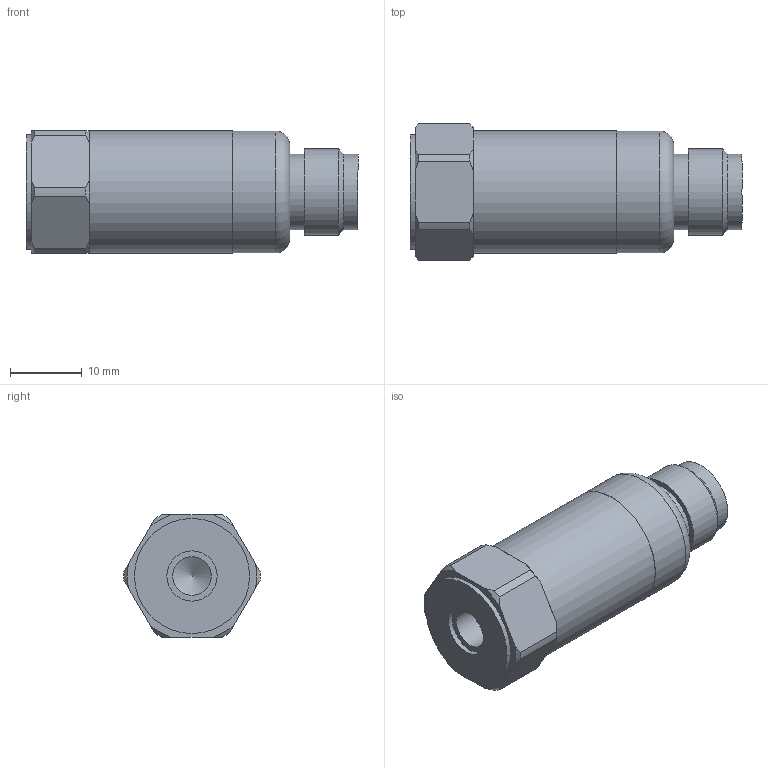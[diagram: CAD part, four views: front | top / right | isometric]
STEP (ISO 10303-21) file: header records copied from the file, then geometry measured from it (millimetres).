
FILE_DESCRIPTION(/* description */ (''),/* implementation_level */ '2;1');
FILE_NAME(/* name */ 'Z:\Engineering\Drawings\3D Library\Assemblies\Website\Premium Top\Compact\HS-170 Top M12\HS-1700105401.stp',/* time_stamp */ '2023-03-16T17:07:42+00:00',/* author */ ('Ricardo.Peneda'),/* organization */ (''),/* preprocessor_version */ 'ST-DEVELOPER v18.1',/* originating_system */ 'Autodesk Inventor 2021',/* authorisation */ '');
FILE_SCHEMA (('AUTOMOTIVE_DESIGN { 1 0 10303 214 3 1 1 }'));
Length unit declared in the file: inch
Products named in the file (1): HS-1700105401_Shrinkwrap_1
Bounding box: 46.2 x 19 x 17 mm (x, y, z)
Volume: 4142.1 mm3; surface area: 4877.8 mm2
Topology: 2 solids, 2 shells, 57 faces, 150 edges, 104 vertices
Faces by surface type: plane 23, cylinder 18, cone 15, torus 1
Full cylindrical faces by diameter (mm): 5.359 x1, 7 x1, 9.4 x1, 10.5 x2, 12 x1, 13.45 x1, 15.05 x1, 15.45 x1, 16 x1, 16.95 x1, 17 x1
Entity records: 1894 total; most frequent: CARTESIAN_POINT 359, DIRECTION 321, ORIENTED_EDGE 298, EDGE_CURVE 149, AXIS2_PLACEMENT_3D 138, VERTEX_POINT 104, CIRCLE 80, EDGE_LOOP 67
